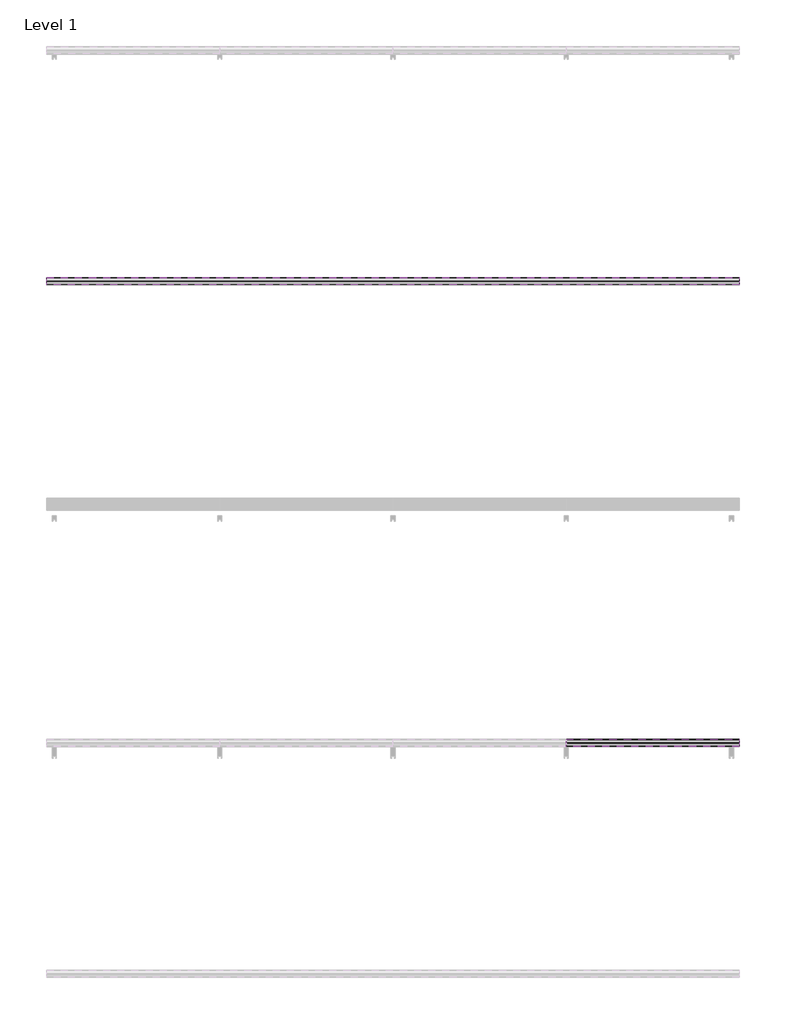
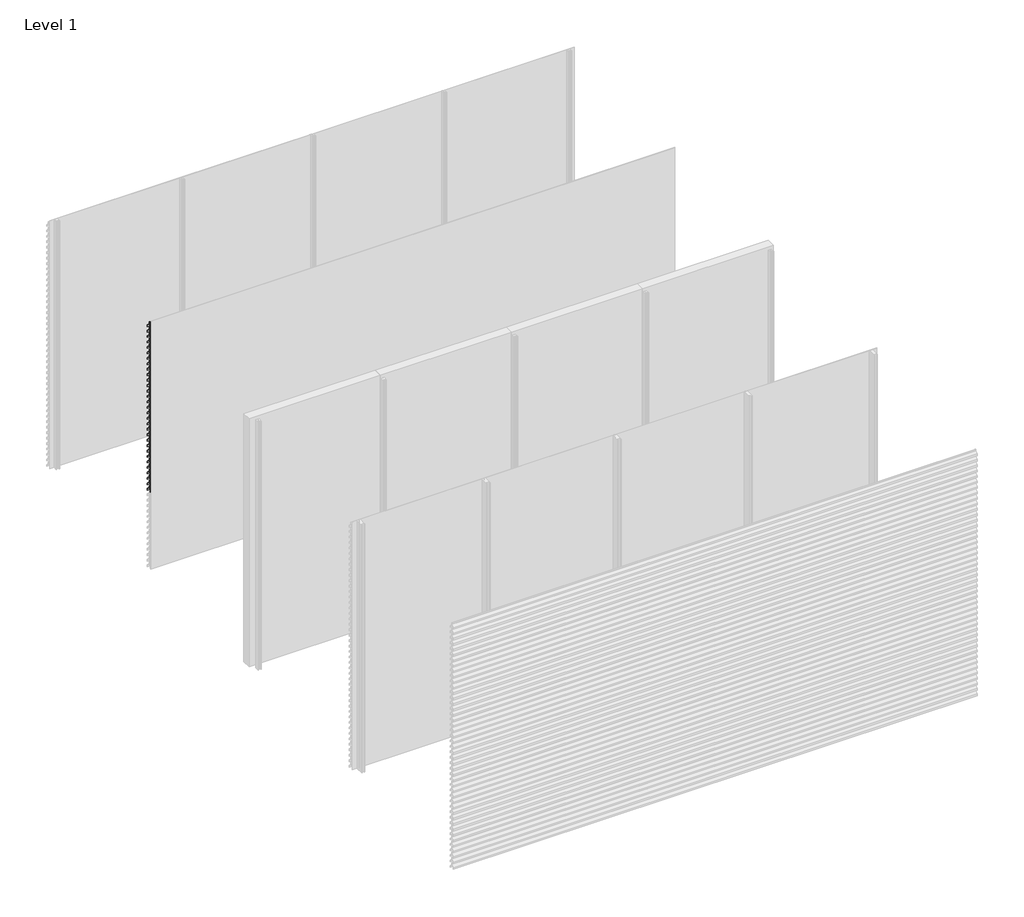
# One storey, part 25 of 35: 69 proxies.
"""IFC4 building model written with IfcOpenShell, lengths in millimetres."""

import ifcopenshell
import ifcopenshell.guid

model = None  # the IFC model being written
_history = None  # IfcOwnerHistory: only IFC2X3 demands one
_inside = {}  # id of a spatial element -> (the spatial element, [elements in it])
_under = {}  # id of a project, library or spatial element -> (it, [spatial elements below it])
_declared = {}  # id of a project -> (the project, [libraries it declares])
_typed = {}  # id of a type object -> (the type object, [elements of that type])
_made_of = {}  # id of a material, layer set ... -> (it, [elements and type objects made of it])


def new_model(schema):
    """Start an empty IFC model of exactly this schema.

    Asked for "IFC4X3", IfcOpenShell would pick the latest addendum, in which some entities
    have other attributes; the version numbers below select the first issue.
    IFC2X3 requires an IfcOwnerHistory on every rooted entity: one is made here for all.
    """
    global model, _history
    if schema == "IFC4X3":
        model = ifcopenshell.file(schema_version=(4, 3, 0, 0))
    else:
        model = ifcopenshell.file(schema=schema)
    _inside.clear()
    _under.clear()
    _declared.clear()
    _typed.clear()
    _made_of.clear()
    _history = None
    if model.schema == "IFC2X3":
        org = make("IfcOrganization", Name="unknown")
        user = make(
            "IfcPersonAndOrganization",
            ThePerson=make("IfcPerson", FamilyName="unknown"),
            TheOrganization=org,
        )
        app = make(
            "IfcApplication",
            ApplicationDeveloper=org,
            Version="unknown",
            ApplicationFullName="unknown",
            ApplicationIdentifier="unknown",
        )
        _history = make(
            "IfcOwnerHistory",
            OwningUser=user,
            OwningApplication=app,
            ChangeAction="ADDED",
            CreationDate=0,
        )
    return model


def make(cls, **values):
    """One entity of the class cls with the attributes given. An attribute that is None is left unset."""
    return model.create_entity(
        cls, **{name: value for name, value in values.items() if value is not None}
    )


def rooted(cls, **values):
    """An entity with a GlobalId (a new one), such as an element, a storey or a relation."""
    return make(cls, GlobalId=ifcopenshell.guid.new(), OwnerHistory=_history, **values)


def si_unit(unit_type, name, prefix=None):
    """IfcSIUnit, for example si_unit("LENGTHUNIT", "METRE", prefix="MILLI")."""
    return make("IfcSIUnit", UnitType=unit_type, Prefix=prefix, Name=name)


def assignment(units):
    """IfcUnitAssignment: the units of a project."""
    return None if units is None else make("IfcUnitAssignment", Units=units)


def point(xyz):
    """IfcCartesianPoint."""
    return None if xyz is None else make("IfcCartesianPoint", Coordinates=xyz)


def direction(xyz):
    """IfcDirection."""
    return None if xyz is None else make("IfcDirection", DirectionRatios=xyz)


def frame(location, z_axis=None, x_axis=None):
    """IfcAxis2Placement3D, a coordinate frame: its origin and axes. An axis left out is left unset."""
    return make(
        "IfcAxis2Placement3D",
        Location=point(location),
        Axis=direction(z_axis),
        RefDirection=direction(x_axis),
    )


def origin():
    """The frame at (0, 0, 0) with its axes left unset."""
    return frame((0.0, 0.0, 0.0))


def place(relative_to, where):
    """IfcLocalPlacement: puts the frame where relative to a parent placement (None: the world)."""
    return make(
        "IfcLocalPlacement", PlacementRelTo=relative_to, RelativePlacement=where
    )


def context(
    kind, dimensions, precision=None, world=None, true_north=None, identifier=None
):
    """IfcGeometricRepresentationContext, for example the 3D "Model" context."""
    return make(
        "IfcGeometricRepresentationContext",
        ContextIdentifier=identifier,
        ContextType=kind,
        CoordinateSpaceDimension=dimensions,
        Precision=precision,
        WorldCoordinateSystem=world,
        TrueNorth=true_north,
    )


def project(units=None, contexts=None):
    """IfcProject with its units and contexts."""
    return rooted(
        "IfcProject",
        Name="project",
        RepresentationContexts=contexts,
        UnitsInContext=assignment(units),
    )


def spatial(cls, under=None, at=None, **own):
    """A site, building, storey or space (cls), placed at a placement, below another one or the project."""
    s = rooted(cls, ObjectPlacement=at, **own)
    if under is not None:
        _under.setdefault(under.id(), (under, []))[1].append(s)
    return s


def polyline(points):
    """IfcPolyline through the points."""
    return make("IfcPolyline", Points=[point(p) for p in points])


def outline(outer, holes=None, kind="AREA"):
    """IfcArbitraryClosedProfileDef: a profile drawn as a closed curve; with holes, ...WithVoids."""
    if holes is None:
        return make("IfcArbitraryClosedProfileDef", ProfileType=kind, OuterCurve=outer)
    return make(
        "IfcArbitraryProfileDefWithVoids",
        ProfileType=kind,
        OuterCurve=outer,
        InnerCurves=holes,
    )


def extrude(swept, where, along, depth):
    """IfcExtrudedAreaSolid: the profile swept, set in the frame where, extruded along a direction by depth."""
    return make(
        "IfcExtrudedAreaSolid",
        SweptArea=swept,
        Position=where,
        ExtrudedDirection=direction(along),
        Depth=depth,
    )


def shape(context_of_items, identifier, shape_type, items):
    """IfcShapeRepresentation: the items that make up one representation, for example the "Body"."""
    return make(
        "IfcShapeRepresentation",
        ContextOfItems=context_of_items,
        RepresentationIdentifier=identifier,
        RepresentationType=shape_type,
        Items=items,
    )


def made_of(thing, what):
    """Note that an element or type object is made of a material, layer set ...; save() writes the relation."""
    if what is not None:
        _made_of.setdefault(what.id(), (what, []))[1].append(thing)
    return thing


def element(
    cls,
    number,
    at=None,
    inside=None,
    cuts=None,
    type_object=None,
    material=None,
    context=None,
    identifier="Body",
    shape_type=None,
    held_by="IfcProductDefinitionShape",
    body=None,
    shapes=None,
    **own,
):
    """One element of the class cls, such as IfcWall. Its Tag is "e" and its number.

    at: its placement. inside: the storey or other place that contains it. cuts: it is an
    opening in that element (IfcRelVoidsElement). A single representation is given by context,
    identifier, shape_type and body (its items); several are given by shapes. held_by: the class
    of the entity that holds the representations. save() writes the other relations.
    """
    e = rooted(cls, Tag="e%d" % number, ObjectPlacement=at, **own)
    if body is not None:
        shapes = [shape(context, identifier, shape_type, body)]
    if shapes is not None:
        e.Representation = make(held_by, Representations=shapes)
    if inside is not None:
        _inside.setdefault(inside.id(), (inside, []))[1].append(e)
    if cuts is not None:
        rooted(
            "IfcRelVoidsElement", RelatingBuildingElement=cuts, RelatedOpeningElement=e
        )
    if type_object is not None:
        _typed.setdefault(type_object.id(), (type_object, []))[1].append(e)
    return made_of(e, material)


def aggregate(whole, parts):
    """IfcRelAggregates: a whole, such as a stair, and the parts it consists of."""
    return rooted("IfcRelAggregates", RelatingObject=whole, RelatedObjects=parts)


def save(model, path):
    """Write the relations noted so far, then the file.

    IfcRelAggregates (storeys below a building ...), IfcRelContainedInSpatialStructure (elements
    in a storey), IfcRelDefinesByType, IfcRelAssociatesMaterial and IfcRelDeclares: one each for
    every whole, place, type object, material and project.
    """
    for whole, parts in _under.values():
        aggregate(whole, parts)
    for where, things in _inside.values():
        rooted(
            "IfcRelContainedInSpatialStructure",
            RelatedElements=things,
            RelatingStructure=where,
        )
    for kind, things in _typed.values():
        rooted("IfcRelDefinesByType", RelatedObjects=things, RelatingType=kind)
    for what, things in _made_of.values():
        rooted("IfcRelAssociatesMaterial", RelatedObjects=things, RelatingMaterial=what)
    for by, libraries in _declared.values():
        rooted("IfcRelDeclares", RelatingContext=by, RelatedDefinitions=libraries)
    model.write(path)


model = new_model("IFC4")

# Units and contexts
model_context = context("Model", 3, world=origin())
ifc_project = project(units=[si_unit("LENGTHUNIT", "METRE", prefix="MILLI")], contexts=[model_context])

# Site, building, storey
site = spatial("IfcSite", under=ifc_project)
building = spatial("IfcBuilding", under=site)
storey = spatial("IfcBuildingStorey", under=building, Name="Level 1", Elevation=0.0)

# Proxies
placement = place(None, origin())
element("IfcBuildingElementProxy", 1, Name="Wall Sweeps", at=placement, inside=storey, context=model_context, shape_type="SweptSolid", body=[
    extrude(outline(polyline([(-13936.0, 2916.0), (-13936.0, 2896.0), (-13937.25, 2896.0), (-13937.25, 2915.4342979), (-13968.1138939, 2948.531772), (-13996.7, 2928.4392868), (-13996.7, 2909.6629874), (-13998.0, 2908.8506572), (-13998.0, 2929.1145472), (-13968.537525, 2949.823011), (-13968.537525, 2970.0), (-13967.1772624, 2970.0), (-13967.1772624, 2949.4335207), (-13936.0, 2916.0)])), frame((0.0, 0.0, 0.0), z_axis=(1.0, 0.0, 0.0), x_axis=(0.0, 1.0, 0.0)), (0.0, 0.0, 1.0), 6000.0),
])
element("IfcBuildingElementProxy", 2, Name="Wall Sweeps", at=placement, inside=storey, context=model_context, shape_type="SweptSolid", body=[
    extrude(outline(polyline([(-13936.0, 2850.0), (-13936.0, 2830.0), (-13937.25, 2830.0), (-13937.25, 2849.4342979), (-13968.1138939, 2882.531772), (-13996.7, 2862.4392868), (-13996.7, 2843.6629874), (-13998.0, 2842.8506572), (-13998.0, 2863.1145472), (-13968.537525, 2883.823011), (-13968.537525, 2904.0), (-13967.1772624, 2904.0), (-13967.1772624, 2883.4335207), (-13936.0, 2850.0)])), frame((0.0, 0.0, 0.0), z_axis=(1.0, 0.0, 0.0), x_axis=(0.0, 1.0, 0.0)), (0.0, 0.0, 1.0), 6000.0),
])
element("IfcBuildingElementProxy", 3, Name="Wall Sweeps", at=placement, inside=storey, context=model_context, shape_type="SweptSolid", body=[
    extrude(outline(polyline([(-13936.0, 2784.0), (-13936.0, 2764.0), (-13937.25, 2764.0), (-13937.25, 2783.4342979), (-13968.1138939, 2816.531772), (-13996.7, 2796.4392868), (-13996.7, 2777.6629874), (-13998.0, 2776.8506572), (-13998.0, 2797.1145472), (-13968.537525, 2817.823011), (-13968.537525, 2838.0), (-13967.1772624, 2838.0), (-13967.1772624, 2817.4335207), (-13936.0, 2784.0)])), frame((0.0, 0.0, 0.0), z_axis=(1.0, 0.0, 0.0), x_axis=(0.0, 1.0, 0.0)), (0.0, 0.0, 1.0), 6000.0),
])
element("IfcBuildingElementProxy", 4, Name="Wall Sweeps", at=placement, inside=storey, context=model_context, shape_type="SweptSolid", body=[
    extrude(outline(polyline([(-13936.0, 2718.0), (-13936.0, 2698.0), (-13937.25, 2698.0), (-13937.25, 2717.4342979), (-13968.1138939, 2750.531772), (-13996.7, 2730.4392868), (-13996.7, 2711.6629874), (-13998.0, 2710.8506572), (-13998.0, 2731.1145472), (-13968.537525, 2751.823011), (-13968.537525, 2772.0), (-13967.1772624, 2772.0), (-13967.1772624, 2751.4335207), (-13936.0, 2718.0)])), frame((0.0, 0.0, 0.0), z_axis=(1.0, 0.0, 0.0), x_axis=(0.0, 1.0, 0.0)), (0.0, 0.0, 1.0), 6000.0),
])
element("IfcBuildingElementProxy", 5, Name="Wall Sweeps", at=placement, inside=storey, context=model_context, shape_type="SweptSolid", body=[
    extrude(outline(polyline([(-13936.0, 2652.0), (-13936.0, 2632.0), (-13937.25, 2632.0), (-13937.25, 2651.4342979), (-13968.1138939, 2684.531772), (-13996.7, 2664.4392868), (-13996.7, 2645.6629874), (-13998.0, 2644.8506572), (-13998.0, 2665.1145472), (-13968.537525, 2685.823011), (-13968.537525, 2706.0), (-13967.1772624, 2706.0), (-13967.1772624, 2685.4335207), (-13936.0, 2652.0)])), frame((0.0, 0.0, 0.0), z_axis=(1.0, 0.0, 0.0), x_axis=(0.0, 1.0, 0.0)), (0.0, 0.0, 1.0), 6000.0),
])
element("IfcBuildingElementProxy", 6, Name="Wall Sweeps", at=placement, inside=storey, context=model_context, shape_type="SweptSolid", body=[
    extrude(outline(polyline([(-13936.0, 2586.0), (-13936.0, 2566.0), (-13937.25, 2566.0), (-13937.25, 2585.4342979), (-13968.1138939, 2618.531772), (-13996.7, 2598.4392868), (-13996.7, 2579.6629874), (-13998.0, 2578.8506572), (-13998.0, 2599.1145472), (-13968.537525, 2619.823011), (-13968.537525, 2640.0), (-13967.1772624, 2640.0), (-13967.1772624, 2619.4335207), (-13936.0, 2586.0)])), frame((0.0, 0.0, 0.0), z_axis=(1.0, 0.0, 0.0), x_axis=(0.0, 1.0, 0.0)), (0.0, 0.0, 1.0), 6000.0),
])
element("IfcBuildingElementProxy", 7, Name="Wall Sweeps", at=placement, inside=storey, context=model_context, shape_type="SweptSolid", body=[
    extrude(outline(polyline([(-13936.0, 2520.0), (-13936.0, 2500.0), (-13937.25, 2500.0), (-13937.25, 2519.4342979), (-13968.1138939, 2552.531772), (-13996.7, 2532.4392868), (-13996.7, 2513.6629874), (-13998.0, 2512.8506572), (-13998.0, 2533.1145472), (-13968.537525, 2553.823011), (-13968.537525, 2574.0), (-13967.1772624, 2574.0), (-13967.1772624, 2553.4335207), (-13936.0, 2520.0)])), frame((0.0, 0.0, 0.0), z_axis=(1.0, 0.0, 0.0), x_axis=(0.0, 1.0, 0.0)), (0.0, 0.0, 1.0), 6000.0),
])
element("IfcBuildingElementProxy", 8, Name="Wall Sweeps", at=placement, inside=storey, context=model_context, shape_type="SweptSolid", body=[
    extrude(outline(polyline([(-13936.0, 2454.0), (-13936.0, 2434.0), (-13937.25, 2434.0), (-13937.25, 2453.4342979), (-13968.1138939, 2486.531772), (-13996.7, 2466.4392868), (-13996.7, 2447.6629874), (-13998.0, 2446.8506572), (-13998.0, 2467.1145472), (-13968.537525, 2487.823011), (-13968.537525, 2508.0), (-13967.1772624, 2508.0), (-13967.1772624, 2487.4335207), (-13936.0, 2454.0)])), frame((0.0, 0.0, 0.0), z_axis=(1.0, 0.0, 0.0), x_axis=(0.0, 1.0, 0.0)), (0.0, 0.0, 1.0), 6000.0),
])
element("IfcBuildingElementProxy", 9, Name="Wall Sweeps", at=placement, inside=storey, context=model_context, shape_type="SweptSolid", body=[
    extrude(outline(polyline([(-13936.0, 2388.0), (-13936.0, 2368.0), (-13937.25, 2368.0), (-13937.25, 2387.4342979), (-13968.1138939, 2420.531772), (-13996.7, 2400.4392868), (-13996.7, 2381.6629874), (-13998.0, 2380.8506572), (-13998.0, 2401.1145472), (-13968.537525, 2421.823011), (-13968.537525, 2442.0), (-13967.1772624, 2442.0), (-13967.1772624, 2421.4335207), (-13936.0, 2388.0)])), frame((0.0, 0.0, 0.0), z_axis=(1.0, 0.0, 0.0), x_axis=(0.0, 1.0, 0.0)), (0.0, 0.0, 1.0), 6000.0),
])
element("IfcBuildingElementProxy", 10, Name="Wall Sweeps", at=placement, inside=storey, context=model_context, shape_type="SweptSolid", body=[
    extrude(outline(polyline([(-13936.0, 2322.0), (-13936.0, 2302.0), (-13937.25, 2302.0), (-13937.25, 2321.4342979), (-13968.1138939, 2354.531772), (-13996.7, 2334.4392868), (-13996.7, 2315.6629874), (-13998.0, 2314.8506572), (-13998.0, 2335.1145472), (-13968.537525, 2355.823011), (-13968.537525, 2376.0), (-13967.1772624, 2376.0), (-13967.1772624, 2355.4335207), (-13936.0, 2322.0)])), frame((0.0, 0.0, 0.0), z_axis=(1.0, 0.0, 0.0), x_axis=(0.0, 1.0, 0.0)), (0.0, 0.0, 1.0), 6000.0),
])
element("IfcBuildingElementProxy", 11, Name="Wall Sweeps", at=placement, inside=storey, context=model_context, shape_type="SweptSolid", body=[
    extrude(outline(polyline([(-13936.0, 2256.0), (-13936.0, 2236.0), (-13937.25, 2236.0), (-13937.25, 2255.4342979), (-13968.1138939, 2288.531772), (-13996.7, 2268.4392868), (-13996.7, 2249.6629874), (-13998.0, 2248.8506572), (-13998.0, 2269.1145472), (-13968.537525, 2289.823011), (-13968.537525, 2310.0), (-13967.1772624, 2310.0), (-13967.1772624, 2289.4335207), (-13936.0, 2256.0)])), frame((0.0, 0.0, 0.0), z_axis=(1.0, 0.0, 0.0), x_axis=(0.0, 1.0, 0.0)), (0.0, 0.0, 1.0), 6000.0),
])
element("IfcBuildingElementProxy", 12, Name="Wall Sweeps", at=placement, inside=storey, context=model_context, shape_type="SweptSolid", body=[
    extrude(outline(polyline([(-13936.0, 2190.0), (-13936.0, 2170.0), (-13937.25, 2170.0), (-13937.25, 2189.4342979), (-13968.1138939, 2222.531772), (-13996.7, 2202.4392868), (-13996.7, 2183.6629874), (-13998.0, 2182.8506572), (-13998.0, 2203.1145472), (-13968.537525, 2223.823011), (-13968.537525, 2244.0), (-13967.1772624, 2244.0), (-13967.1772624, 2223.4335207), (-13936.0, 2190.0)])), frame((0.0, 0.0, 0.0), z_axis=(1.0, 0.0, 0.0), x_axis=(0.0, 1.0, 0.0)), (0.0, 0.0, 1.0), 6000.0),
])
element("IfcBuildingElementProxy", 13, Name="Wall Sweeps", at=placement, inside=storey, context=model_context, shape_type="SweptSolid", body=[
    extrude(outline(polyline([(-13936.0, 2124.0), (-13936.0, 2104.0), (-13937.25, 2104.0), (-13937.25, 2123.4342979), (-13968.1138939, 2156.531772), (-13996.7, 2136.4392868), (-13996.7, 2117.6629874), (-13998.0, 2116.8506572), (-13998.0, 2137.1145472), (-13968.537525, 2157.823011), (-13968.537525, 2178.0), (-13967.1772624, 2178.0), (-13967.1772624, 2157.4335207), (-13936.0, 2124.0)])), frame((0.0, 0.0, 0.0), z_axis=(1.0, 0.0, 0.0), x_axis=(0.0, 1.0, 0.0)), (0.0, 0.0, 1.0), 6000.0),
])
element("IfcBuildingElementProxy", 14, Name="Wall Sweeps", at=placement, inside=storey, context=model_context, shape_type="SweptSolid", body=[
    extrude(outline(polyline([(-13936.0, 2058.0), (-13936.0, 2038.0), (-13937.25, 2038.0), (-13937.25, 2057.4342979), (-13968.1138939, 2090.531772), (-13996.7, 2070.4392868), (-13996.7, 2051.6629874), (-13998.0, 2050.8506572), (-13998.0, 2071.1145472), (-13968.537525, 2091.823011), (-13968.537525, 2112.0), (-13967.1772624, 2112.0), (-13967.1772624, 2091.4335207), (-13936.0, 2058.0)])), frame((0.0, 0.0, 0.0), z_axis=(1.0, 0.0, 0.0), x_axis=(0.0, 1.0, 0.0)), (0.0, 0.0, 1.0), 6000.0),
])
element("IfcBuildingElementProxy", 15, Name="Wall Sweeps", at=placement, inside=storey, context=model_context, shape_type="SweptSolid", body=[
    extrude(outline(polyline([(-13936.0, 1992.0), (-13936.0, 1972.0), (-13937.25, 1972.0), (-13937.25, 1991.4342979), (-13968.1138939, 2024.531772), (-13996.7, 2004.4392868), (-13996.7, 1985.6629874), (-13998.0, 1984.8506572), (-13998.0, 2005.1145472), (-13968.537525, 2025.823011), (-13968.537525, 2046.0), (-13967.1772624, 2046.0), (-13967.1772624, 2025.4335207), (-13936.0, 1992.0)])), frame((0.0, 0.0, 0.0), z_axis=(1.0, 0.0, 0.0), x_axis=(0.0, 1.0, 0.0)), (0.0, 0.0, 1.0), 6000.0),
])
element("IfcBuildingElementProxy", 16, Name="Wall Sweeps", at=placement, inside=storey, context=model_context, shape_type="SweptSolid", body=[
    extrude(outline(polyline([(-13936.0, 1926.0), (-13936.0, 1906.0), (-13937.25, 1906.0), (-13937.25, 1925.4342979), (-13968.1138939, 1958.531772), (-13996.7, 1938.4392868), (-13996.7, 1919.6629874), (-13998.0, 1918.8506572), (-13998.0, 1939.1145472), (-13968.537525, 1959.823011), (-13968.537525, 1980.0), (-13967.1772624, 1980.0), (-13967.1772624, 1959.4335207), (-13936.0, 1926.0)])), frame((0.0, 0.0, 0.0), z_axis=(1.0, 0.0, 0.0), x_axis=(0.0, 1.0, 0.0)), (0.0, 0.0, 1.0), 6000.0),
])
element("IfcBuildingElementProxy", 17, Name="Wall Sweeps", at=placement, inside=storey, context=model_context, shape_type="SweptSolid", body=[
    extrude(outline(polyline([(-13936.0, 1860.0), (-13936.0, 1840.0), (-13937.25, 1840.0), (-13937.25, 1859.4342979), (-13968.1138939, 1892.531772), (-13996.7, 1872.4392868), (-13996.7, 1853.6629874), (-13998.0, 1852.8506572), (-13998.0, 1873.1145472), (-13968.537525, 1893.823011), (-13968.537525, 1914.0), (-13967.1772624, 1914.0), (-13967.1772624, 1893.4335207), (-13936.0, 1860.0)])), frame((0.0, 0.0, 0.0), z_axis=(1.0, 0.0, 0.0), x_axis=(0.0, 1.0, 0.0)), (0.0, 0.0, 1.0), 6000.0),
])
element("IfcBuildingElementProxy", 18, Name="Wall Sweeps", at=placement, inside=storey, context=model_context, shape_type="SweptSolid", body=[
    extrude(outline(polyline([(-13936.0, 1794.0), (-13936.0, 1774.0), (-13937.25, 1774.0), (-13937.25, 1793.4342979), (-13968.1138939, 1826.531772), (-13996.7, 1806.4392868), (-13996.7, 1787.6629874), (-13998.0, 1786.8506572), (-13998.0, 1807.1145472), (-13968.537525, 1827.823011), (-13968.537525, 1848.0), (-13967.1772624, 1848.0), (-13967.1772624, 1827.4335207), (-13936.0, 1794.0)])), frame((0.0, 0.0, 0.0), z_axis=(1.0, 0.0, 0.0), x_axis=(0.0, 1.0, 0.0)), (0.0, 0.0, 1.0), 6000.0),
])
element("IfcBuildingElementProxy", 19, Name="Wall Sweeps", at=placement, inside=storey, context=model_context, shape_type="SweptSolid", body=[
    extrude(outline(polyline([(-13936.0, 1728.0), (-13936.0, 1708.0), (-13937.25, 1708.0), (-13937.25, 1727.4342979), (-13968.1138939, 1760.531772), (-13996.7, 1740.4392868), (-13996.7, 1721.6629874), (-13998.0, 1720.8506572), (-13998.0, 1741.1145472), (-13968.537525, 1761.823011), (-13968.537525, 1782.0), (-13967.1772624, 1782.0), (-13967.1772624, 1761.4335207), (-13936.0, 1728.0)])), frame((0.0, 0.0, 0.0), z_axis=(1.0, 0.0, 0.0), x_axis=(0.0, 1.0, 0.0)), (0.0, 0.0, 1.0), 6000.0),
])
element("IfcBuildingElementProxy", 20, Name="Wall Sweeps", at=placement, inside=storey, context=model_context, shape_type="SweptSolid", body=[
    extrude(outline(polyline([(-13936.0, 1662.0), (-13936.0, 1642.0), (-13937.25, 1642.0), (-13937.25, 1661.4342979), (-13968.1138939, 1694.531772), (-13996.7, 1674.4392868), (-13996.7, 1655.6629874), (-13998.0, 1654.8506572), (-13998.0, 1675.1145472), (-13968.537525, 1695.823011), (-13968.537525, 1716.0), (-13967.1772624, 1716.0), (-13967.1772624, 1695.4335207), (-13936.0, 1662.0)])), frame((0.0, 0.0, 0.0), z_axis=(1.0, 0.0, 0.0), x_axis=(0.0, 1.0, 0.0)), (0.0, 0.0, 1.0), 6000.0),
])
element("IfcBuildingElementProxy", 21, Name="Wall Sweeps", at=placement, inside=storey, context=model_context, shape_type="SweptSolid", body=[
    extrude(outline(polyline([(-13936.0, 1596.0), (-13936.0, 1576.0), (-13937.25, 1576.0), (-13937.25, 1595.4342979), (-13968.1138939, 1628.531772), (-13996.7, 1608.4392868), (-13996.7, 1589.6629874), (-13998.0, 1588.8506572), (-13998.0, 1609.1145472), (-13968.537525, 1629.823011), (-13968.537525, 1650.0), (-13967.1772624, 1650.0), (-13967.1772624, 1629.4335207), (-13936.0, 1596.0)])), frame((0.0, 0.0, 0.0), z_axis=(1.0, 0.0, 0.0), x_axis=(0.0, 1.0, 0.0)), (0.0, 0.0, 1.0), 6000.0),
])
element("IfcBuildingElementProxy", 22, Name="Wall Sweeps", at=placement, inside=storey, context=model_context, shape_type="SweptSolid", body=[
    extrude(outline(polyline([(-13936.0, 1530.0), (-13936.0, 1510.0), (-13937.25, 1510.0), (-13937.25, 1529.4342979), (-13968.1138939, 1562.531772), (-13996.7, 1542.4392868), (-13996.7, 1523.6629874), (-13998.0, 1522.8506572), (-13998.0, 1543.1145472), (-13968.537525, 1563.823011), (-13968.537525, 1584.0), (-13967.1772624, 1584.0), (-13967.1772624, 1563.4335207), (-13936.0, 1530.0)])), frame((0.0, 0.0, 0.0), z_axis=(1.0, 0.0, 0.0), x_axis=(0.0, 1.0, 0.0)), (0.0, 0.0, 1.0), 6000.0),
])
element("IfcBuildingElementProxy", 23, Name="Wall Sweeps", at=placement, inside=storey, context=model_context, shape_type="SweptSolid", body=[
    extrude(outline(polyline([(-13936.0, 1464.0), (-13936.0, 1444.0), (-13937.25, 1444.0), (-13937.25, 1463.4342979), (-13968.1138939, 1496.531772), (-13996.7, 1476.4392868), (-13996.7, 1457.6629874), (-13998.0, 1456.8506572), (-13998.0, 1477.1145472), (-13968.537525, 1497.823011), (-13968.537525, 1518.0), (-13967.1772624, 1518.0), (-13967.1772624, 1497.4335207), (-13936.0, 1464.0)])), frame((0.0, 0.0, 0.0), z_axis=(1.0, 0.0, 0.0), x_axis=(0.0, 1.0, 0.0)), (0.0, 0.0, 1.0), 6000.0),
])
element("IfcBuildingElementProxy", 24, Name="Wall Sweeps", at=placement, inside=storey, context=model_context, shape_type="SweptSolid", body=[
    extrude(outline(polyline([(-13936.0, 1398.0), (-13936.0, 1378.0), (-13937.25, 1378.0), (-13937.25, 1397.4342979), (-13968.1138939, 1430.531772), (-13996.7, 1410.4392868), (-13996.7, 1391.6629874), (-13998.0, 1390.8506572), (-13998.0, 1411.1145472), (-13968.537525, 1431.823011), (-13968.537525, 1452.0), (-13967.1772624, 1452.0), (-13967.1772624, 1431.4335207), (-13936.0, 1398.0)])), frame((0.0, 0.0, 0.0), z_axis=(1.0, 0.0, 0.0), x_axis=(0.0, 1.0, 0.0)), (0.0, 0.0, 1.0), 6000.0),
])
element("IfcBuildingElementProxy", 25, Name="Wall Sweeps", at=placement, inside=storey, context=model_context, shape_type="SweptSolid", body=[
    extrude(outline(polyline([(-13936.0, 1332.0), (-13936.0, 1312.0), (-13937.25, 1312.0), (-13937.25, 1331.4342979), (-13968.1138939, 1364.531772), (-13996.7, 1344.4392868), (-13996.7, 1325.6629874), (-13998.0, 1324.8506572), (-13998.0, 1345.1145472), (-13968.537525, 1365.823011), (-13968.537525, 1386.0), (-13967.1772624, 1386.0), (-13967.1772624, 1365.4335207), (-13936.0, 1332.0)])), frame((0.0, 0.0, 0.0), z_axis=(1.0, 0.0, 0.0), x_axis=(0.0, 1.0, 0.0)), (0.0, 0.0, 1.0), 6000.0),
])
element("IfcBuildingElementProxy", 26, Name="Wall Sweeps", at=placement, inside=storey, context=model_context, shape_type="SweptSolid", body=[
    extrude(outline(polyline([(-13936.0, 1266.0), (-13936.0, 1246.0), (-13937.25, 1246.0), (-13937.25, 1265.4342979), (-13968.1138939, 1298.531772), (-13996.7, 1278.4392868), (-13996.7, 1259.6629874), (-13998.0, 1258.8506572), (-13998.0, 1279.1145472), (-13968.537525, 1299.823011), (-13968.537525, 1320.0), (-13967.1772624, 1320.0), (-13967.1772624, 1299.4335207), (-13936.0, 1266.0)])), frame((0.0, 0.0, 0.0), z_axis=(1.0, 0.0, 0.0), x_axis=(0.0, 1.0, 0.0)), (0.0, 0.0, 1.0), 6000.0),
])
element("IfcBuildingElementProxy", 27, Name="Wall Sweeps", at=placement, inside=storey, context=model_context, shape_type="SweptSolid", body=[
    extrude(outline(polyline([(-13936.0, 1200.0), (-13936.0, 1180.0), (-13937.25, 1180.0), (-13937.25, 1199.4342979), (-13968.1138939, 1232.531772), (-13996.7, 1212.4392868), (-13996.7, 1193.6629874), (-13998.0, 1192.8506572), (-13998.0, 1213.1145472), (-13968.537525, 1233.823011), (-13968.537525, 1254.0), (-13967.1772624, 1254.0), (-13967.1772624, 1233.4335207), (-13936.0, 1200.0)])), frame((0.0, 0.0, 0.0), z_axis=(1.0, 0.0, 0.0), x_axis=(0.0, 1.0, 0.0)), (0.0, 0.0, 1.0), 6000.0),
])
element("IfcBuildingElementProxy", 28, Name="Wall Sweeps", at=placement, inside=storey, context=model_context, shape_type="SweptSolid", body=[
    extrude(outline(polyline([(-13936.0, 1134.0), (-13936.0, 1114.0), (-13937.25, 1114.0), (-13937.25, 1133.4342979), (-13968.1138939, 1166.531772), (-13996.7, 1146.4392868), (-13996.7, 1127.6629874), (-13998.0, 1126.8506572), (-13998.0, 1147.1145472), (-13968.537525, 1167.823011), (-13968.537525, 1188.0), (-13967.1772624, 1188.0), (-13967.1772624, 1167.4335207), (-13936.0, 1134.0)])), frame((0.0, 0.0, 0.0), z_axis=(1.0, 0.0, 0.0), x_axis=(0.0, 1.0, 0.0)), (0.0, 0.0, 1.0), 6000.0),
])
element("IfcBuildingElementProxy", 29, Name="Wall Sweeps", at=placement, inside=storey, context=model_context, shape_type="SweptSolid", body=[
    extrude(outline(polyline([(-13936.0, 1068.0), (-13936.0, 1048.0), (-13937.25, 1048.0), (-13937.25, 1067.4342979), (-13968.1138939, 1100.531772), (-13996.7, 1080.4392868), (-13996.7, 1061.6629874), (-13998.0, 1060.8506572), (-13998.0, 1081.1145472), (-13968.537525, 1101.823011), (-13968.537525, 1122.0), (-13967.1772624, 1122.0), (-13967.1772624, 1101.4335207), (-13936.0, 1068.0)])), frame((0.0, 0.0, 0.0), z_axis=(1.0, 0.0, 0.0), x_axis=(0.0, 1.0, 0.0)), (0.0, 0.0, 1.0), 6000.0),
])
element("IfcBuildingElementProxy", 30, Name="Wall Sweeps", at=placement, inside=storey, context=model_context, shape_type="SweptSolid", body=[
    extrude(outline(polyline([(-13936.0, 1002.0), (-13936.0, 982.0), (-13937.25, 982.0), (-13937.25, 1001.4342979), (-13968.1138939, 1034.531772), (-13996.7, 1014.4392868), (-13996.7, 995.6629874), (-13998.0, 994.8506572), (-13998.0, 1015.1145472), (-13968.537525, 1035.823011), (-13968.537525, 1056.0), (-13967.1772624, 1056.0), (-13967.1772624, 1035.4335207), (-13936.0, 1002.0)])), frame((0.0, 0.0, 0.0), z_axis=(1.0, 0.0, 0.0), x_axis=(0.0, 1.0, 0.0)), (0.0, 0.0, 1.0), 6000.0),
])
element("IfcBuildingElementProxy", 31, Name="Wall Sweeps", at=placement, inside=storey, context=model_context, shape_type="SweptSolid", body=[
    extrude(outline(polyline([(-13936.0, 936.0), (-13936.0, 916.0), (-13937.25, 916.0), (-13937.25, 935.4342979), (-13968.1138939, 968.531772), (-13996.7, 948.4392868), (-13996.7, 929.6629874), (-13998.0, 928.8506572), (-13998.0, 949.1145472), (-13968.537525, 969.823011), (-13968.537525, 990.0), (-13967.1772624, 990.0), (-13967.1772624, 969.4335207), (-13936.0, 936.0)])), frame((0.0, 0.0, 0.0), z_axis=(1.0, 0.0, 0.0), x_axis=(0.0, 1.0, 0.0)), (0.0, 0.0, 1.0), 6000.0),
])
element("IfcBuildingElementProxy", 32, Name="Wall Sweeps", at=placement, inside=storey, context=model_context, shape_type="SweptSolid", body=[
    extrude(outline(polyline([(-17936.0, 2454.0), (-17936.0, 2434.0), (-17937.25, 2434.0), (-17937.25, 2453.4342979), (-17968.1138939, 2486.531772), (-17996.7, 2466.4392868), (-17996.7, 2447.6629874), (-17998.0, 2446.8506572), (-17998.0, 2467.1145472), (-17968.537525, 2487.823011), (-17968.537525, 2508.0), (-17967.1772624, 2508.0), (-17967.1772624, 2487.4335207), (-17936.0, 2454.0)])), frame((4500.0, 0.0, 0.0), z_axis=(1.0, 0.0, 0.0), x_axis=(0.0, 1.0, 0.0)), (0.0, 0.0, 1.0), 1500.0),
])
element("IfcBuildingElementProxy", 33, Name="Wall Sweeps", at=placement, inside=storey, context=model_context, shape_type="SweptSolid", body=[
    extrude(outline(polyline([(-17936.0, 2388.0), (-17936.0, 2368.0), (-17937.25, 2368.0), (-17937.25, 2387.4342979), (-17968.1138939, 2420.531772), (-17996.7, 2400.4392868), (-17996.7, 2381.6629874), (-17998.0, 2380.8506572), (-17998.0, 2401.1145472), (-17968.537525, 2421.823011), (-17968.537525, 2442.0), (-17967.1772624, 2442.0), (-17967.1772624, 2421.4335207), (-17936.0, 2388.0)])), frame((4500.0, 0.0, 0.0), z_axis=(1.0, 0.0, 0.0), x_axis=(0.0, 1.0, 0.0)), (0.0, 0.0, 1.0), 1500.0),
])
element("IfcBuildingElementProxy", 34, Name="Wall Sweeps", at=placement, inside=storey, context=model_context, shape_type="SweptSolid", body=[
    extrude(outline(polyline([(-17936.0, 2322.0), (-17936.0, 2302.0), (-17937.25, 2302.0), (-17937.25, 2321.4342979), (-17968.1138939, 2354.531772), (-17996.7, 2334.4392868), (-17996.7, 2315.6629874), (-17998.0, 2314.8506572), (-17998.0, 2335.1145472), (-17968.537525, 2355.823011), (-17968.537525, 2376.0), (-17967.1772624, 2376.0), (-17967.1772624, 2355.4335207), (-17936.0, 2322.0)])), frame((4500.0, 0.0, 0.0), z_axis=(1.0, 0.0, 0.0), x_axis=(0.0, 1.0, 0.0)), (0.0, 0.0, 1.0), 1500.0),
])
element("IfcBuildingElementProxy", 35, Name="Wall Sweeps", at=placement, inside=storey, context=model_context, shape_type="SweptSolid", body=[
    extrude(outline(polyline([(-17936.0, 2256.0), (-17936.0, 2236.0), (-17937.25, 2236.0), (-17937.25, 2255.4342979), (-17968.1138939, 2288.531772), (-17996.7, 2268.4392868), (-17996.7, 2249.6629874), (-17998.0, 2248.8506572), (-17998.0, 2269.1145472), (-17968.537525, 2289.823011), (-17968.537525, 2310.0), (-17967.1772624, 2310.0), (-17967.1772624, 2289.4335207), (-17936.0, 2256.0)])), frame((4500.0, 0.0, 0.0), z_axis=(1.0, 0.0, 0.0), x_axis=(0.0, 1.0, 0.0)), (0.0, 0.0, 1.0), 1500.0),
])
element("IfcBuildingElementProxy", 36, Name="Wall Sweeps", at=placement, inside=storey, context=model_context, shape_type="SweptSolid", body=[
    extrude(outline(polyline([(-17936.0, 2190.0), (-17936.0, 2170.0), (-17937.25, 2170.0), (-17937.25, 2189.4342979), (-17968.1138939, 2222.531772), (-17996.7, 2202.4392868), (-17996.7, 2183.6629874), (-17998.0, 2182.8506572), (-17998.0, 2203.1145472), (-17968.537525, 2223.823011), (-17968.537525, 2244.0), (-17967.1772624, 2244.0), (-17967.1772624, 2223.4335207), (-17936.0, 2190.0)])), frame((4500.0, 0.0, 0.0), z_axis=(1.0, 0.0, 0.0), x_axis=(0.0, 1.0, 0.0)), (0.0, 0.0, 1.0), 1500.0),
])
element("IfcBuildingElementProxy", 37, Name="Wall Sweeps", at=placement, inside=storey, context=model_context, shape_type="SweptSolid", body=[
    extrude(outline(polyline([(-17936.0, 2124.0), (-17936.0, 2104.0), (-17937.25, 2104.0), (-17937.25, 2123.4342979), (-17968.1138939, 2156.531772), (-17996.7, 2136.4392868), (-17996.7, 2117.6629874), (-17998.0, 2116.8506572), (-17998.0, 2137.1145472), (-17968.537525, 2157.823011), (-17968.537525, 2178.0), (-17967.1772624, 2178.0), (-17967.1772624, 2157.4335207), (-17936.0, 2124.0)])), frame((4500.0, 0.0, 0.0), z_axis=(1.0, 0.0, 0.0), x_axis=(0.0, 1.0, 0.0)), (0.0, 0.0, 1.0), 1500.0),
])
element("IfcBuildingElementProxy", 38, Name="Wall Sweeps", at=placement, inside=storey, context=model_context, shape_type="SweptSolid", body=[
    extrude(outline(polyline([(-17936.0, 2058.0), (-17936.0, 2038.0), (-17937.25, 2038.0), (-17937.25, 2057.4342979), (-17968.1138939, 2090.531772), (-17996.7, 2070.4392868), (-17996.7, 2051.6629874), (-17998.0, 2050.8506572), (-17998.0, 2071.1145472), (-17968.537525, 2091.823011), (-17968.537525, 2112.0), (-17967.1772624, 2112.0), (-17967.1772624, 2091.4335207), (-17936.0, 2058.0)])), frame((4500.0, 0.0, 0.0), z_axis=(1.0, 0.0, 0.0), x_axis=(0.0, 1.0, 0.0)), (0.0, 0.0, 1.0), 1500.0),
])
element("IfcBuildingElementProxy", 39, Name="Wall Sweeps", at=placement, inside=storey, context=model_context, shape_type="SweptSolid", body=[
    extrude(outline(polyline([(-17936.0, 1992.0), (-17936.0, 1972.0), (-17937.25, 1972.0), (-17937.25, 1991.4342979), (-17968.1138939, 2024.531772), (-17996.7, 2004.4392868), (-17996.7, 1985.6629874), (-17998.0, 1984.8506572), (-17998.0, 2005.1145472), (-17968.537525, 2025.823011), (-17968.537525, 2046.0), (-17967.1772624, 2046.0), (-17967.1772624, 2025.4335207), (-17936.0, 1992.0)])), frame((4500.0, 0.0, 0.0), z_axis=(1.0, 0.0, 0.0), x_axis=(0.0, 1.0, 0.0)), (0.0, 0.0, 1.0), 1500.0),
])
element("IfcBuildingElementProxy", 40, Name="Wall Sweeps", at=placement, inside=storey, context=model_context, shape_type="SweptSolid", body=[
    extrude(outline(polyline([(-17936.0, 1926.0), (-17936.0, 1906.0), (-17937.25, 1906.0), (-17937.25, 1925.4342979), (-17968.1138939, 1958.531772), (-17996.7, 1938.4392868), (-17996.7, 1919.6629874), (-17998.0, 1918.8506572), (-17998.0, 1939.1145472), (-17968.537525, 1959.823011), (-17968.537525, 1980.0), (-17967.1772624, 1980.0), (-17967.1772624, 1959.4335207), (-17936.0, 1926.0)])), frame((4500.0, 0.0, 0.0), z_axis=(1.0, 0.0, 0.0), x_axis=(0.0, 1.0, 0.0)), (0.0, 0.0, 1.0), 1500.0),
])
element("IfcBuildingElementProxy", 41, Name="Wall Sweeps", at=placement, inside=storey, context=model_context, shape_type="SweptSolid", body=[
    extrude(outline(polyline([(-17936.0, 1860.0), (-17936.0, 1840.0), (-17937.25, 1840.0), (-17937.25, 1859.4342979), (-17968.1138939, 1892.531772), (-17996.7, 1872.4392868), (-17996.7, 1853.6629874), (-17998.0, 1852.8506572), (-17998.0, 1873.1145472), (-17968.537525, 1893.823011), (-17968.537525, 1914.0), (-17967.1772624, 1914.0), (-17967.1772624, 1893.4335207), (-17936.0, 1860.0)])), frame((4500.0, 0.0, 0.0), z_axis=(1.0, 0.0, 0.0), x_axis=(0.0, 1.0, 0.0)), (0.0, 0.0, 1.0), 1500.0),
])
element("IfcBuildingElementProxy", 42, Name="Wall Sweeps", at=placement, inside=storey, context=model_context, shape_type="SweptSolid", body=[
    extrude(outline(polyline([(-17936.0, 1794.0), (-17936.0, 1774.0), (-17937.25, 1774.0), (-17937.25, 1793.4342979), (-17968.1138939, 1826.531772), (-17996.7, 1806.4392868), (-17996.7, 1787.6629874), (-17998.0, 1786.8506572), (-17998.0, 1807.1145472), (-17968.537525, 1827.823011), (-17968.537525, 1848.0), (-17967.1772624, 1848.0), (-17967.1772624, 1827.4335207), (-17936.0, 1794.0)])), frame((4500.0, 0.0, 0.0), z_axis=(1.0, 0.0, 0.0), x_axis=(0.0, 1.0, 0.0)), (0.0, 0.0, 1.0), 1500.0),
])
element("IfcBuildingElementProxy", 43, Name="Wall Sweeps", at=placement, inside=storey, context=model_context, shape_type="SweptSolid", body=[
    extrude(outline(polyline([(-17936.0, 1728.0), (-17936.0, 1708.0), (-17937.25, 1708.0), (-17937.25, 1727.4342979), (-17968.1138939, 1760.531772), (-17996.7, 1740.4392868), (-17996.7, 1721.6629874), (-17998.0, 1720.8506572), (-17998.0, 1741.1145472), (-17968.537525, 1761.823011), (-17968.537525, 1782.0), (-17967.1772624, 1782.0), (-17967.1772624, 1761.4335207), (-17936.0, 1728.0)])), frame((4500.0, 0.0, 0.0), z_axis=(1.0, 0.0, 0.0), x_axis=(0.0, 1.0, 0.0)), (0.0, 0.0, 1.0), 1500.0),
])
element("IfcBuildingElementProxy", 44, Name="Wall Sweeps", at=placement, inside=storey, context=model_context, shape_type="SweptSolid", body=[
    extrude(outline(polyline([(-17936.0, 1662.0), (-17936.0, 1642.0), (-17937.25, 1642.0), (-17937.25, 1661.4342979), (-17968.1138939, 1694.531772), (-17996.7, 1674.4392868), (-17996.7, 1655.6629874), (-17998.0, 1654.8506572), (-17998.0, 1675.1145472), (-17968.537525, 1695.823011), (-17968.537525, 1716.0), (-17967.1772624, 1716.0), (-17967.1772624, 1695.4335207), (-17936.0, 1662.0)])), frame((4500.0, 0.0, 0.0), z_axis=(1.0, 0.0, 0.0), x_axis=(0.0, 1.0, 0.0)), (0.0, 0.0, 1.0), 1500.0),
])
element("IfcBuildingElementProxy", 45, Name="Wall Sweeps", at=placement, inside=storey, context=model_context, shape_type="SweptSolid", body=[
    extrude(outline(polyline([(-17936.0, 1596.0), (-17936.0, 1576.0), (-17937.25, 1576.0), (-17937.25, 1595.4342979), (-17968.1138939, 1628.531772), (-17996.7, 1608.4392868), (-17996.7, 1589.6629874), (-17998.0, 1588.8506572), (-17998.0, 1609.1145472), (-17968.537525, 1629.823011), (-17968.537525, 1650.0), (-17967.1772624, 1650.0), (-17967.1772624, 1629.4335207), (-17936.0, 1596.0)])), frame((4500.0, 0.0, 0.0), z_axis=(1.0, 0.0, 0.0), x_axis=(0.0, 1.0, 0.0)), (0.0, 0.0, 1.0), 1500.0),
])
element("IfcBuildingElementProxy", 46, Name="Wall Sweeps", at=placement, inside=storey, context=model_context, shape_type="SweptSolid", body=[
    extrude(outline(polyline([(-17936.0, 1530.0), (-17936.0, 1510.0), (-17937.25, 1510.0), (-17937.25, 1529.4342979), (-17968.1138939, 1562.531772), (-17996.7, 1542.4392868), (-17996.7, 1523.6629874), (-17998.0, 1522.8506572), (-17998.0, 1543.1145472), (-17968.537525, 1563.823011), (-17968.537525, 1584.0), (-17967.1772624, 1584.0), (-17967.1772624, 1563.4335207), (-17936.0, 1530.0)])), frame((4500.0, 0.0, 0.0), z_axis=(1.0, 0.0, 0.0), x_axis=(0.0, 1.0, 0.0)), (0.0, 0.0, 1.0), 1500.0),
])
element("IfcBuildingElementProxy", 47, Name="Wall Sweeps", at=placement, inside=storey, context=model_context, shape_type="SweptSolid", body=[
    extrude(outline(polyline([(-17936.0, 1464.0), (-17936.0, 1444.0), (-17937.25, 1444.0), (-17937.25, 1463.4342979), (-17968.1138939, 1496.531772), (-17996.7, 1476.4392868), (-17996.7, 1457.6629874), (-17998.0, 1456.8506572), (-17998.0, 1477.1145472), (-17968.537525, 1497.823011), (-17968.537525, 1518.0), (-17967.1772624, 1518.0), (-17967.1772624, 1497.4335207), (-17936.0, 1464.0)])), frame((4500.0, 0.0, 0.0), z_axis=(1.0, 0.0, 0.0), x_axis=(0.0, 1.0, 0.0)), (0.0, 0.0, 1.0), 1500.0),
])
element("IfcBuildingElementProxy", 48, Name="Wall Sweeps", at=placement, inside=storey, context=model_context, shape_type="SweptSolid", body=[
    extrude(outline(polyline([(-17936.0, 1398.0), (-17936.0, 1378.0), (-17937.25, 1378.0), (-17937.25, 1397.4342979), (-17968.1138939, 1430.531772), (-17996.7, 1410.4392868), (-17996.7, 1391.6629874), (-17998.0, 1390.8506572), (-17998.0, 1411.1145472), (-17968.537525, 1431.823011), (-17968.537525, 1452.0), (-17967.1772624, 1452.0), (-17967.1772624, 1431.4335207), (-17936.0, 1398.0)])), frame((4500.0, 0.0, 0.0), z_axis=(1.0, 0.0, 0.0), x_axis=(0.0, 1.0, 0.0)), (0.0, 0.0, 1.0), 1500.0),
])
element("IfcBuildingElementProxy", 49, Name="Wall Sweeps", at=placement, inside=storey, context=model_context, shape_type="SweptSolid", body=[
    extrude(outline(polyline([(-17936.0, 1332.0), (-17936.0, 1312.0), (-17937.25, 1312.0), (-17937.25, 1331.4342979), (-17968.1138939, 1364.531772), (-17996.7, 1344.4392868), (-17996.7, 1325.6629874), (-17998.0, 1324.8506572), (-17998.0, 1345.1145472), (-17968.537525, 1365.823011), (-17968.537525, 1386.0), (-17967.1772624, 1386.0), (-17967.1772624, 1365.4335207), (-17936.0, 1332.0)])), frame((4500.0, 0.0, 0.0), z_axis=(1.0, 0.0, 0.0), x_axis=(0.0, 1.0, 0.0)), (0.0, 0.0, 1.0), 1500.0),
])
element("IfcBuildingElementProxy", 50, Name="Wall Sweeps", at=placement, inside=storey, context=model_context, shape_type="SweptSolid", body=[
    extrude(outline(polyline([(-17936.0, 1266.0), (-17936.0, 1246.0), (-17937.25, 1246.0), (-17937.25, 1265.4342979), (-17968.1138939, 1298.531772), (-17996.7, 1278.4392868), (-17996.7, 1259.6629874), (-17998.0, 1258.8506572), (-17998.0, 1279.1145472), (-17968.537525, 1299.823011), (-17968.537525, 1320.0), (-17967.1772624, 1320.0), (-17967.1772624, 1299.4335207), (-17936.0, 1266.0)])), frame((4500.0, 0.0, 0.0), z_axis=(1.0, 0.0, 0.0), x_axis=(0.0, 1.0, 0.0)), (0.0, 0.0, 1.0), 1500.0),
])
element("IfcBuildingElementProxy", 51, Name="Wall Sweeps", at=placement, inside=storey, context=model_context, shape_type="SweptSolid", body=[
    extrude(outline(polyline([(-17936.0, 1200.0), (-17936.0, 1180.0), (-17937.25, 1180.0), (-17937.25, 1199.4342979), (-17968.1138939, 1232.531772), (-17996.7, 1212.4392868), (-17996.7, 1193.6629874), (-17998.0, 1192.8506572), (-17998.0, 1213.1145472), (-17968.537525, 1233.823011), (-17968.537525, 1254.0), (-17967.1772624, 1254.0), (-17967.1772624, 1233.4335207), (-17936.0, 1200.0)])), frame((4500.0, 0.0, 0.0), z_axis=(1.0, 0.0, 0.0), x_axis=(0.0, 1.0, 0.0)), (0.0, 0.0, 1.0), 1500.0),
])
element("IfcBuildingElementProxy", 52, Name="Wall Sweeps", at=placement, inside=storey, context=model_context, shape_type="SweptSolid", body=[
    extrude(outline(polyline([(-17936.0, 1134.0), (-17936.0, 1114.0), (-17937.25, 1114.0), (-17937.25, 1133.4342979), (-17968.1138939, 1166.531772), (-17996.7, 1146.4392868), (-17996.7, 1127.6629874), (-17998.0, 1126.8506572), (-17998.0, 1147.1145472), (-17968.537525, 1167.823011), (-17968.537525, 1188.0), (-17967.1772624, 1188.0), (-17967.1772624, 1167.4335207), (-17936.0, 1134.0)])), frame((4500.0, 0.0, 0.0), z_axis=(1.0, 0.0, 0.0), x_axis=(0.0, 1.0, 0.0)), (0.0, 0.0, 1.0), 1500.0),
])
element("IfcBuildingElementProxy", 53, Name="Wall Sweeps", at=placement, inside=storey, context=model_context, shape_type="SweptSolid", body=[
    extrude(outline(polyline([(-17936.0, 1068.0), (-17936.0, 1048.0), (-17937.25, 1048.0), (-17937.25, 1067.4342979), (-17968.1138939, 1100.531772), (-17996.7, 1080.4392868), (-17996.7, 1061.6629874), (-17998.0, 1060.8506572), (-17998.0, 1081.1145472), (-17968.537525, 1101.823011), (-17968.537525, 1122.0), (-17967.1772624, 1122.0), (-17967.1772624, 1101.4335207), (-17936.0, 1068.0)])), frame((4500.0, 0.0, 0.0), z_axis=(1.0, 0.0, 0.0), x_axis=(0.0, 1.0, 0.0)), (0.0, 0.0, 1.0), 1500.0),
])
element("IfcBuildingElementProxy", 54, Name="Wall Sweeps", at=placement, inside=storey, context=model_context, shape_type="SweptSolid", body=[
    extrude(outline(polyline([(-17936.0, 1002.0), (-17936.0, 982.0), (-17937.25, 982.0), (-17937.25, 1001.4342979), (-17968.1138939, 1034.531772), (-17996.7, 1014.4392868), (-17996.7, 995.6629874), (-17998.0, 994.8506572), (-17998.0, 1015.1145472), (-17968.537525, 1035.823011), (-17968.537525, 1056.0), (-17967.1772624, 1056.0), (-17967.1772624, 1035.4335207), (-17936.0, 1002.0)])), frame((4500.0, 0.0, 0.0), z_axis=(1.0, 0.0, 0.0), x_axis=(0.0, 1.0, 0.0)), (0.0, 0.0, 1.0), 1500.0),
])
element("IfcBuildingElementProxy", 55, Name="Wall Sweeps", at=placement, inside=storey, context=model_context, shape_type="SweptSolid", body=[
    extrude(outline(polyline([(-17936.0, 936.0), (-17936.0, 916.0), (-17937.25, 916.0), (-17937.25, 935.4342979), (-17968.1138939, 968.531772), (-17996.7, 948.4392868), (-17996.7, 929.6629874), (-17998.0, 928.8506572), (-17998.0, 949.1145472), (-17968.537525, 969.823011), (-17968.537525, 990.0), (-17967.1772624, 990.0), (-17967.1772624, 969.4335207), (-17936.0, 936.0)])), frame((4500.0, 0.0, 0.0), z_axis=(1.0, 0.0, 0.0), x_axis=(0.0, 1.0, 0.0)), (0.0, 0.0, 1.0), 1500.0),
])
element("IfcBuildingElementProxy", 56, Name="Wall Sweeps", at=placement, inside=storey, context=model_context, shape_type="SweptSolid", body=[
    extrude(outline(polyline([(-17936.0, 870.0), (-17936.0, 850.0), (-17937.25, 850.0), (-17937.25, 869.4342979), (-17968.1138939, 902.531772), (-17996.7, 882.4392868), (-17996.7, 863.6629874), (-17998.0, 862.8506572), (-17998.0, 883.1145472), (-17968.537525, 903.823011), (-17968.537525, 924.0), (-17967.1772624, 924.0), (-17967.1772624, 903.4335207), (-17936.0, 870.0)])), frame((4500.0, 0.0, 0.0), z_axis=(1.0, 0.0, 0.0), x_axis=(0.0, 1.0, 0.0)), (0.0, 0.0, 1.0), 1500.0),
])
element("IfcBuildingElementProxy", 57, Name="Wall Sweeps", at=placement, inside=storey, context=model_context, shape_type="SweptSolid", body=[
    extrude(outline(polyline([(-17936.0, 804.0), (-17936.0, 784.0), (-17937.25, 784.0), (-17937.25, 803.4342979), (-17968.1138939, 836.531772), (-17996.7, 816.4392868), (-17996.7, 797.6629874), (-17998.0, 796.8506572), (-17998.0, 817.1145472), (-17968.537525, 837.823011), (-17968.537525, 858.0), (-17967.1772624, 858.0), (-17967.1772624, 837.4335207), (-17936.0, 804.0)])), frame((4500.0, 0.0, 0.0), z_axis=(1.0, 0.0, 0.0), x_axis=(0.0, 1.0, 0.0)), (0.0, 0.0, 1.0), 1500.0),
])
element("IfcBuildingElementProxy", 58, Name="Wall Sweeps", at=placement, inside=storey, context=model_context, shape_type="SweptSolid", body=[
    extrude(outline(polyline([(-17936.0, 738.0), (-17936.0, 718.0), (-17937.25, 718.0), (-17937.25, 737.4342979), (-17968.1138939, 770.531772), (-17996.7, 750.4392868), (-17996.7, 731.6629874), (-17998.0, 730.8506572), (-17998.0, 751.1145472), (-17968.537525, 771.823011), (-17968.537525, 792.0), (-17967.1772624, 792.0), (-17967.1772624, 771.4335207), (-17936.0, 738.0)])), frame((4500.0, 0.0, 0.0), z_axis=(1.0, 0.0, 0.0), x_axis=(0.0, 1.0, 0.0)), (0.0, 0.0, 1.0), 1500.0),
])
element("IfcBuildingElementProxy", 59, Name="Wall Sweeps", at=placement, inside=storey, context=model_context, shape_type="SweptSolid", body=[
    extrude(outline(polyline([(-17936.0, 672.0), (-17936.0, 652.0), (-17937.25, 652.0), (-17937.25, 671.4342979), (-17968.1138939, 704.531772), (-17996.7, 684.4392868), (-17996.7, 665.6629874), (-17998.0, 664.8506572), (-17998.0, 685.1145472), (-17968.537525, 705.823011), (-17968.537525, 726.0), (-17967.1772624, 726.0), (-17967.1772624, 705.4335207), (-17936.0, 672.0)])), frame((4500.0, 0.0, 0.0), z_axis=(1.0, 0.0, 0.0), x_axis=(0.0, 1.0, 0.0)), (0.0, 0.0, 1.0), 1500.0),
])
element("IfcBuildingElementProxy", 60, Name="Wall Sweeps", at=placement, inside=storey, context=model_context, shape_type="SweptSolid", body=[
    extrude(outline(polyline([(-17936.0, 606.0), (-17936.0, 586.0), (-17937.25, 586.0), (-17937.25, 605.4342979), (-17968.1138939, 638.531772), (-17996.7, 618.4392868), (-17996.7, 599.6629874), (-17998.0, 598.8506572), (-17998.0, 619.1145472), (-17968.537525, 639.823011), (-17968.537525, 660.0), (-17967.1772624, 660.0), (-17967.1772624, 639.4335207), (-17936.0, 606.0)])), frame((4500.0, 0.0, 0.0), z_axis=(1.0, 0.0, 0.0), x_axis=(0.0, 1.0, 0.0)), (0.0, 0.0, 1.0), 1500.0),
])
element("IfcBuildingElementProxy", 61, Name="Wall Sweeps", at=placement, inside=storey, context=model_context, shape_type="SweptSolid", body=[
    extrude(outline(polyline([(-17936.0, 540.0), (-17936.0, 520.0), (-17937.25, 520.0), (-17937.25, 539.4342979), (-17968.1138939, 572.531772), (-17996.7, 552.4392868), (-17996.7, 533.6629874), (-17998.0, 532.8506572), (-17998.0, 553.1145472), (-17968.537525, 573.823011), (-17968.537525, 594.0), (-17967.1772624, 594.0), (-17967.1772624, 573.4335207), (-17936.0, 540.0)])), frame((4500.0, 0.0, 0.0), z_axis=(1.0, 0.0, 0.0), x_axis=(0.0, 1.0, 0.0)), (0.0, 0.0, 1.0), 1500.0),
])
element("IfcBuildingElementProxy", 62, Name="Wall Sweeps", at=placement, inside=storey, context=model_context, shape_type="SweptSolid", body=[
    extrude(outline(polyline([(-17936.0, 474.0), (-17936.0, 454.0), (-17937.25, 454.0), (-17937.25, 473.4342979), (-17968.1138939, 506.531772), (-17996.7, 486.4392868), (-17996.7, 467.6629874), (-17998.0, 466.8506572), (-17998.0, 487.1145472), (-17968.537525, 507.823011), (-17968.537525, 528.0), (-17967.1772624, 528.0), (-17967.1772624, 507.4335207), (-17936.0, 474.0)])), frame((4500.0, 0.0, 0.0), z_axis=(1.0, 0.0, 0.0), x_axis=(0.0, 1.0, 0.0)), (0.0, 0.0, 1.0), 1500.0),
])
element("IfcBuildingElementProxy", 63, Name="Wall Sweeps", at=placement, inside=storey, context=model_context, shape_type="SweptSolid", body=[
    extrude(outline(polyline([(-17936.0, 408.0), (-17936.0, 388.0), (-17937.25, 388.0), (-17937.25, 407.4342979), (-17968.1138939, 440.531772), (-17996.7, 420.4392868), (-17996.7, 401.6629874), (-17998.0, 400.8506572), (-17998.0, 421.1145472), (-17968.537525, 441.823011), (-17968.537525, 462.0), (-17967.1772624, 462.0), (-17967.1772624, 441.4335207), (-17936.0, 408.0)])), frame((4500.0, 0.0, 0.0), z_axis=(1.0, 0.0, 0.0), x_axis=(0.0, 1.0, 0.0)), (0.0, 0.0, 1.0), 1500.0),
])
element("IfcBuildingElementProxy", 64, Name="Wall Sweeps", at=placement, inside=storey, context=model_context, shape_type="SweptSolid", body=[
    extrude(outline(polyline([(-17936.0, 342.0), (-17936.0, 322.0), (-17937.25, 322.0), (-17937.25, 341.4342979), (-17968.1138939, 374.531772), (-17996.7, 354.4392868), (-17996.7, 335.6629874), (-17998.0, 334.8506572), (-17998.0, 355.1145472), (-17968.537525, 375.823011), (-17968.537525, 396.0), (-17967.1772624, 396.0), (-17967.1772624, 375.4335207), (-17936.0, 342.0)])), frame((4500.0, 0.0, 0.0), z_axis=(1.0, 0.0, 0.0), x_axis=(0.0, 1.0, 0.0)), (0.0, 0.0, 1.0), 1500.0),
])
element("IfcBuildingElementProxy", 65, Name="Wall Sweeps", at=placement, inside=storey, context=model_context, shape_type="SweptSolid", body=[
    extrude(outline(polyline([(-17936.0, 276.0), (-17936.0, 256.0), (-17937.25, 256.0), (-17937.25, 275.4342979), (-17968.1138939, 308.531772), (-17996.7, 288.4392868), (-17996.7, 269.6629874), (-17998.0, 268.8506572), (-17998.0, 289.1145472), (-17968.537525, 309.823011), (-17968.537525, 330.0), (-17967.1772624, 330.0), (-17967.1772624, 309.4335207), (-17936.0, 276.0)])), frame((4500.0, 0.0, 0.0), z_axis=(1.0, 0.0, 0.0), x_axis=(0.0, 1.0, 0.0)), (0.0, 0.0, 1.0), 1500.0),
])
element("IfcBuildingElementProxy", 66, Name="Wall Sweeps", at=placement, inside=storey, context=model_context, shape_type="SweptSolid", body=[
    extrude(outline(polyline([(-17936.0, 210.0), (-17936.0, 190.0), (-17937.25, 190.0), (-17937.25, 209.4342979), (-17968.1138939, 242.531772), (-17996.7, 222.4392868), (-17996.7, 203.6629874), (-17998.0, 202.8506572), (-17998.0, 223.1145472), (-17968.537525, 243.823011), (-17968.537525, 264.0), (-17967.1772624, 264.0), (-17967.1772624, 243.4335207), (-17936.0, 210.0)])), frame((4500.0, 0.0, 0.0), z_axis=(1.0, 0.0, 0.0), x_axis=(0.0, 1.0, 0.0)), (0.0, 0.0, 1.0), 1500.0),
])
element("IfcBuildingElementProxy", 67, Name="Wall Sweeps", at=placement, inside=storey, context=model_context, shape_type="SweptSolid", body=[
    extrude(outline(polyline([(-17936.0, 144.0), (-17936.0, 124.0), (-17937.25, 124.0), (-17937.25, 143.4342979), (-17968.1138939, 176.531772), (-17996.7, 156.4392868), (-17996.7, 137.6629874), (-17998.0, 136.8506572), (-17998.0, 157.1145472), (-17968.537525, 177.823011), (-17968.537525, 198.0), (-17967.1772624, 198.0), (-17967.1772624, 177.4335207), (-17936.0, 144.0)])), frame((4500.0, 0.0, 0.0), z_axis=(1.0, 0.0, 0.0), x_axis=(0.0, 1.0, 0.0)), (0.0, 0.0, 1.0), 1500.0),
])
element("IfcBuildingElementProxy", 68, Name="Wall Sweeps", at=placement, inside=storey, context=model_context, shape_type="SweptSolid", body=[
    extrude(outline(polyline([(-17936.0, 78.0), (-17936.0, 58.0), (-17937.25, 58.0), (-17937.25, 77.4342979), (-17968.1138939, 110.531772), (-17996.7, 90.4392868), (-17996.7, 71.6629874), (-17998.0, 70.8506572), (-17998.0, 91.1145472), (-17968.537525, 111.823011), (-17968.537525, 132.0), (-17967.1772624, 132.0), (-17967.1772624, 111.4335207), (-17936.0, 78.0)])), frame((4500.0, 0.0, 0.0), z_axis=(1.0, 0.0, 0.0), x_axis=(0.0, 1.0, 0.0)), (0.0, 0.0, 1.0), 1500.0),
])
element("IfcBuildingElementProxy", 69, Name="Wall Sweeps", at=placement, inside=storey, context=model_context, shape_type="SweptSolid", body=[
    extrude(outline(polyline([(-17936.0, 12.0), (-17936.0, -8.0), (-17937.25, -8.0), (-17937.25, 11.4342979), (-17968.1138939, 44.531772), (-17996.7, 24.4392868), (-17996.7, 5.6629874), (-17998.0, 4.8506572), (-17998.0, 25.1145472), (-17968.537525, 45.823011), (-17968.537525, 66.0), (-17967.1772624, 66.0), (-17967.1772624, 45.4335207), (-17936.0, 12.0)])), frame((4500.0, 0.0, 0.0), z_axis=(1.0, 0.0, 0.0), x_axis=(0.0, 1.0, 0.0)), (0.0, 0.0, 1.0), 1500.0),
])

save(model, "model.ifc")
